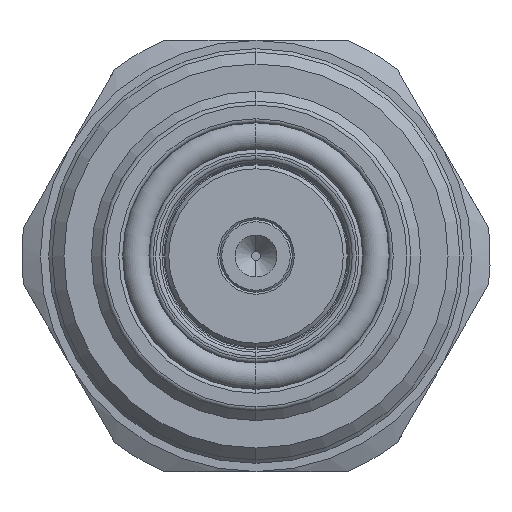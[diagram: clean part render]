
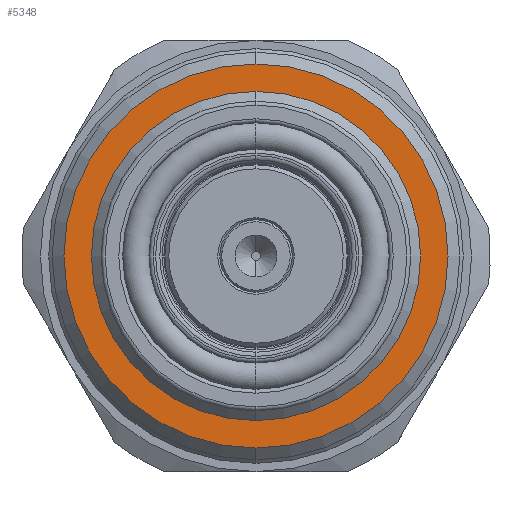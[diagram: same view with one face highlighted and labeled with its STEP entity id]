
A CAD part, left-side view. The second image highlights one B-rep face of the part: STEP entity #5348.
In plain terms, the highlighted planar face has unit normal (-1, 0, 0).
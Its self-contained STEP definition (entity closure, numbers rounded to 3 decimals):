
#57 = AXIS2_PLACEMENT_3D ( 'NONE', #1100, #1083, #1107 ) ;
#107 = AXIS2_PLACEMENT_3D ( 'NONE', #341, #346, #338 ) ;
#111 = AXIS2_PLACEMENT_3D ( 'NONE', #354, #343, #342 ) ;
#133 = AXIS2_PLACEMENT_3D ( 'NONE', #333, #331, #344 ) ;
#245 = AXIS2_PLACEMENT_3D ( 'NONE', #715, #689, #693 ) ;
#271 = VERTEX_POINT ( 'NONE', #1900 ) ;
#275 = VERTEX_POINT ( 'NONE', #1868 ) ;
#331 = DIRECTION ( 'NONE',  ( -1., 0., 0. ) ) ;
#333 = CARTESIAN_POINT ( 'NONE',  ( -2.883, 0., 0. ) ) ;
#338 = DIRECTION ( 'NONE',  ( 0., 0., 1. ) ) ;
#341 = CARTESIAN_POINT ( 'NONE',  ( -2.883, 0., 0. ) ) ;
#342 = DIRECTION ( 'NONE',  ( 0., 0., 1. ) ) ;
#343 = DIRECTION ( 'NONE',  ( -1., 0., 0. ) ) ;
#344 = DIRECTION ( 'NONE',  ( 0., 0., 1. ) ) ;
#346 = DIRECTION ( 'NONE',  ( -1., 0., 0. ) ) ;
#354 = CARTESIAN_POINT ( 'NONE',  ( -2.883, 0., 0. ) ) ;
#689 = DIRECTION ( 'NONE',  ( 1., 0., 0. ) ) ;
#692 = PLANE ( 'NONE',  #245 ) ;
#693 = DIRECTION ( 'NONE',  ( 0., 0., -1. ) ) ;
#715 = CARTESIAN_POINT ( 'NONE',  ( -2.883, 0., 0. ) ) ;
#1083 = DIRECTION ( 'NONE',  ( -1., 0., 0. ) ) ;
#1100 = CARTESIAN_POINT ( 'NONE',  ( -2.883, 0., 0. ) ) ;
#1107 = DIRECTION ( 'NONE',  ( 0., 0., 1. ) ) ;
#1868 = CARTESIAN_POINT ( 'NONE',  ( -2.883, 0., 9.8 ) ) ;
#1900 = CARTESIAN_POINT ( 'NONE',  ( -2.883, 0., 8.4 ) ) ;
#2241 = CARTESIAN_POINT ( 'NONE',  ( -2.883, 0., -8.4 ) ) ;
#2259 = CARTESIAN_POINT ( 'NONE',  ( -2.883, 0., -9.8 ) ) ;
#2551 = ORIENTED_EDGE ( 'NONE', *, *, #5233, .F. ) ;
#2562 = ORIENTED_EDGE ( 'NONE', *, *, #5202, .T. ) ;
#2593 = ORIENTED_EDGE ( 'NONE', *, *, #5236, .F. ) ;
#2598 = ORIENTED_EDGE ( 'NONE', *, *, #5232, .T. ) ;
#3167 = CIRCLE ( 'NONE', #57, 9.8 ) ;
#3182 = CIRCLE ( 'NONE', #107, 8.4 ) ;
#3193 = CIRCLE ( 'NONE', #111, 8.4 ) ;
#3218 = CIRCLE ( 'NONE', #133, 9.8 ) ;
#3423 = FACE_BOUND ( 'NONE', #4167, .T. ) ;
#3428 = FACE_OUTER_BOUND ( 'NONE', #4177, .T. ) ;
#4167 = EDGE_LOOP ( 'NONE', ( #2551, #2593 ) ) ;
#4177 = EDGE_LOOP ( 'NONE', ( #2598, #2562 ) ) ;
#4506 = VERTEX_POINT ( 'NONE', #2241 ) ;
#4507 = VERTEX_POINT ( 'NONE', #2259 ) ;
#5202 = EDGE_CURVE ( 'NONE', #275, #4507, #3167, .T. ) ;
#5232 = EDGE_CURVE ( 'NONE', #4507, #275, #3218, .T. ) ;
#5233 = EDGE_CURVE ( 'NONE', #4506, #271, #3182, .T. ) ;
#5236 = EDGE_CURVE ( 'NONE', #271, #4506, #3193, .T. ) ;
#5348 = ADVANCED_FACE ( 'NONE', ( #3423, #3428 ), #692, .F. ) ;
